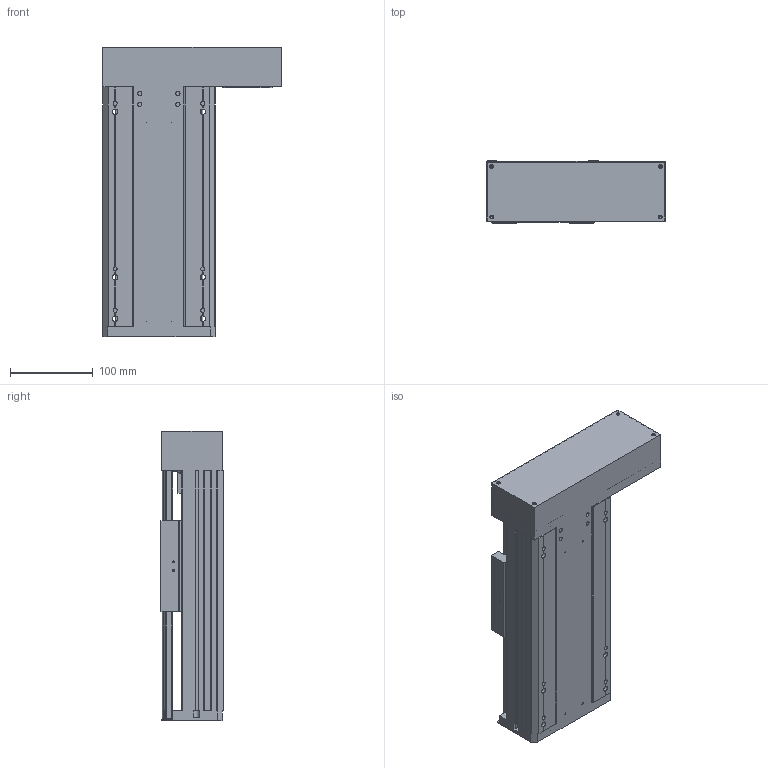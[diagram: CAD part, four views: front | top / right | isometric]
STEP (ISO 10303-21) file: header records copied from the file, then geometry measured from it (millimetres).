
FILE_DESCRIPTION(/* description */ (''),/* implementation_level */ '2;1');
FILE_NAME(/* name */ 'TKA136-FR-100_asm1.stp',/* time_stamp */ '2016-05-07T13:51:20+08:00',/* author */ (''),/* organization */ (''),/* preprocessor_version */ 'ST-DEVELOPER v15',/* originating_system */ 'SIEMENS PLM Software NX 8.5',/* authorisation */ '');
FILE_SCHEMA (('AUTOMOTIVE_DESIGN { 1 0 10303 214 3 1 1 1 }'));
Length unit declared in the file: millimetre
Products named in the file (3): 100-02; 100-01; TKA136-FR-100_asm1
Assembly tree (2 placements, depth 2):
  TKA136-FR-100_asm1
    100-01
    100-02
Bounding box: 216 x 75 x 350 mm (x, y, z)
Volume: 1375896.5 mm3; surface area: 538295.7 mm2
Topology: 2 solids, 12 shells, 853 faces, 2356 edges, 1541 vertices
Faces by surface type: plane 411, cylinder 389, cone 53
Full cylindrical faces by diameter (mm): 2.5 x4, 3 x2, 3.3 x15, 4 x4, 4.2 x14, 4.5 x26, 5 x14, 5.5 x26, 6.6 x10, 8 x20, 10 x9, 10.5 x6, 11 x4, 11.6 x1, 12 x9, 15 x3, 16 x5, 17 x1, 24 x5, 26 x1, 28 x1, 46 x2, 50 x1
Entity records: 27841 total; most frequent: CARTESIAN_POINT 7132, DIRECTION 4331, ORIENTED_EDGE 3962, EDGE_CURVE 1981, AXIS2_PLACEMENT_3D 1649, VERTEX_POINT 1427, EDGE_LOOP 1261, LINE 1033
